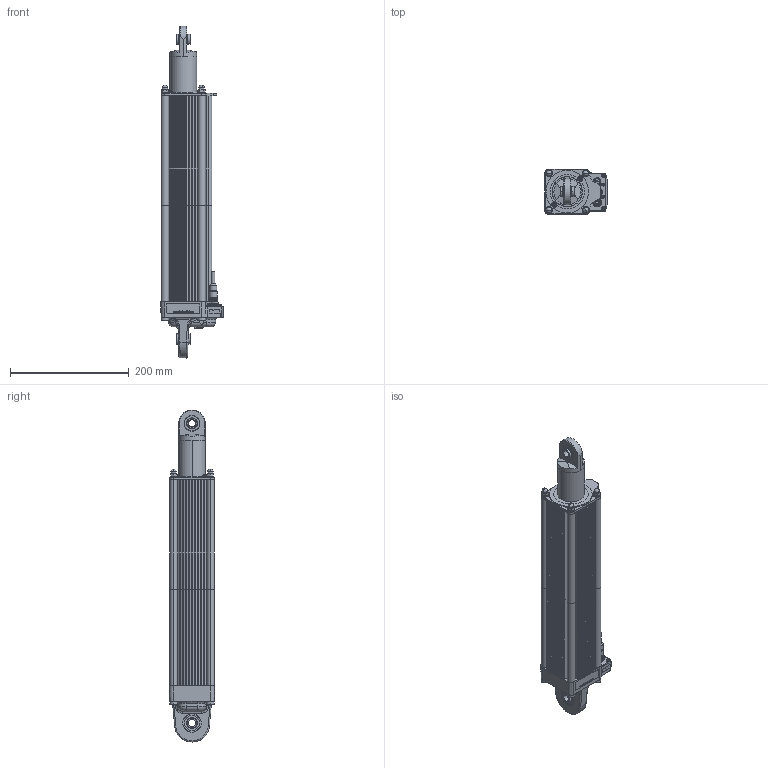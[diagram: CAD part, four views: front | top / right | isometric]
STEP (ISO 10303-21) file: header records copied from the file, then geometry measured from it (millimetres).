
FILE_DESCRIPTION (( 'STEP AP214' ), '1' );
FILE_NAME ('AG_9613.STEP', '2022-02-23T10:58:22', ( '' ), ( '' ), 'SwSTEP 2.0', 'SolidWorks 2019', '' );
FILE_SCHEMA (( 'AUTOMOTIVE_DESIGN' ));
Length unit declared in the file: millimetre
Products named in the file (1): AG_9613
Bounding box: 105.43 x 76.28 x 559.5 mm (x, y, z)
Volume: 2221778 mm3; surface area: 420283.3 mm2
Topology: 51 solids, 51 shells, 3209 faces, 8697 edges, 5741 vertices
Faces by surface type: plane 1326, cylinder 1252, bspline 291, cone 238, torus 60, sphere 42
Entity records: 159030 total; most frequent: CARTESIAN_POINT 43383, ORIENTED_EDGE 17266, DIRECTION 16146, EDGE_CURVE 8633, AXIS2_PLACEMENT_3D 5847, VERTEX_POINT 5721, VECTOR 4452, LINE 4452
